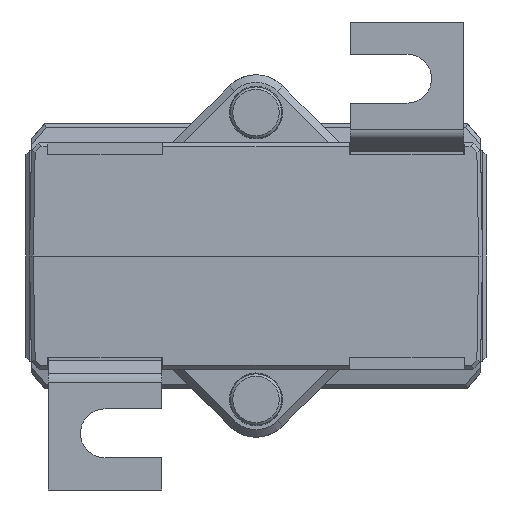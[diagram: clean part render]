
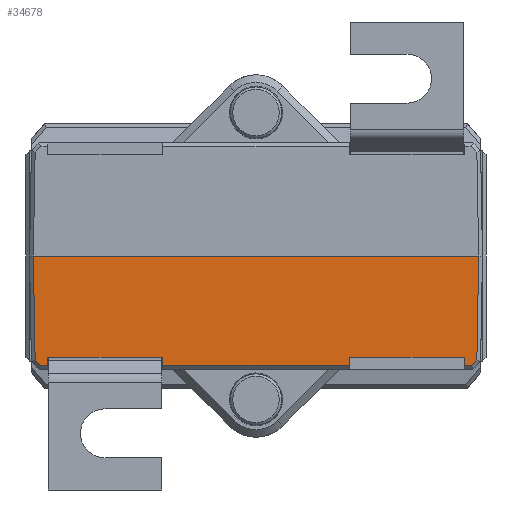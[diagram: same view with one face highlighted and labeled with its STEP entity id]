
A CAD part, front view. The second image highlights one B-rep face of the part: STEP entity #34678.
In plain terms, the highlighted planar face has unit normal (0, -1, -0.018).
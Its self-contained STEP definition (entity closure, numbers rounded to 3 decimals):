
#2311=FACE_OUTER_BOUND('',#4211,.T.);
#4211=EDGE_LOOP('',(#23944,#23945,#23946,#23947,#23948,#23949,#23950,#23951,
#23952,#23953,#23954,#23955,#23956,#23957));
#6909=LINE('',#55763,#10638);
#6910=LINE('',#55765,#10639);
#6911=LINE('',#55767,#10640);
#6912=LINE('',#55769,#10641);
#6913=LINE('',#55771,#10642);
#6914=LINE('',#55773,#10643);
#6915=LINE('',#55775,#10644);
#6916=LINE('',#55777,#10645);
#6917=LINE('',#55779,#10646);
#6918=LINE('',#55781,#10647);
#6919=LINE('',#55783,#10648);
#6920=LINE('',#55785,#10649);
#6921=LINE('',#55787,#10650);
#6922=LINE('',#55788,#10651);
#10638=VECTOR('',#40457,1000.);
#10639=VECTOR('',#40458,1000.);
#10640=VECTOR('',#40459,1000.);
#10641=VECTOR('',#40460,1000.);
#10642=VECTOR('',#40461,1000.);
#10643=VECTOR('',#40462,1000.);
#10644=VECTOR('',#40463,1000.);
#10645=VECTOR('',#40464,1000.);
#10646=VECTOR('',#40465,1000.);
#10647=VECTOR('',#40466,1000.);
#10648=VECTOR('',#40467,1000.);
#10649=VECTOR('',#40468,1000.);
#10650=VECTOR('',#40469,1000.);
#10651=VECTOR('',#40470,1000.);
#14410=VERTEX_POINT('',#55761);
#14411=VERTEX_POINT('',#55762);
#14412=VERTEX_POINT('',#55764);
#14413=VERTEX_POINT('',#55766);
#14414=VERTEX_POINT('',#55768);
#14415=VERTEX_POINT('',#55770);
#14416=VERTEX_POINT('',#55772);
#14417=VERTEX_POINT('',#55774);
#14418=VERTEX_POINT('',#55776);
#14419=VERTEX_POINT('',#55778);
#14420=VERTEX_POINT('',#55780);
#14421=VERTEX_POINT('',#55782);
#14422=VERTEX_POINT('',#55784);
#14423=VERTEX_POINT('',#55786);
#18038=EDGE_CURVE('',#14410,#14411,#6909,.T.);
#18039=EDGE_CURVE('',#14411,#14412,#6910,.T.);
#18040=EDGE_CURVE('',#14412,#14413,#6911,.T.);
#18041=EDGE_CURVE('',#14414,#14413,#6912,.T.);
#18042=EDGE_CURVE('',#14414,#14415,#6913,.T.);
#18043=EDGE_CURVE('',#14416,#14415,#6914,.T.);
#18044=EDGE_CURVE('',#14416,#14417,#6915,.T.);
#18045=EDGE_CURVE('',#14418,#14417,#6916,.T.);
#18046=EDGE_CURVE('',#14419,#14418,#6917,.T.);
#18047=EDGE_CURVE('',#14420,#14419,#6918,.T.);
#18048=EDGE_CURVE('',#14420,#14421,#6919,.T.);
#18049=EDGE_CURVE('',#14421,#14422,#6920,.T.);
#18050=EDGE_CURVE('',#14422,#14423,#6921,.T.);
#18051=EDGE_CURVE('',#14410,#14423,#6922,.T.);
#23944=ORIENTED_EDGE('',*,*,#18038,.T.);
#23945=ORIENTED_EDGE('',*,*,#18039,.T.);
#23946=ORIENTED_EDGE('',*,*,#18040,.T.);
#23947=ORIENTED_EDGE('',*,*,#18041,.F.);
#23948=ORIENTED_EDGE('',*,*,#18042,.T.);
#23949=ORIENTED_EDGE('',*,*,#18043,.F.);
#23950=ORIENTED_EDGE('',*,*,#18044,.T.);
#23951=ORIENTED_EDGE('',*,*,#18045,.F.);
#23952=ORIENTED_EDGE('',*,*,#18046,.F.);
#23953=ORIENTED_EDGE('',*,*,#18047,.F.);
#23954=ORIENTED_EDGE('',*,*,#18048,.T.);
#23955=ORIENTED_EDGE('',*,*,#18049,.T.);
#23956=ORIENTED_EDGE('',*,*,#18050,.T.);
#23957=ORIENTED_EDGE('',*,*,#18051,.F.);
#31546=PLANE('',#36771);
#34678=ADVANCED_FACE('',(#2311),#31546,.T.);
#36771=AXIS2_PLACEMENT_3D('',#55760,#40455,#40456);
#40455=DIRECTION('center_axis',(0.,-1.,
-0.017));
#40456=DIRECTION('ref_axis',(0.,-0.017,
1.));
#40457=DIRECTION('',(0.017,0.017,-1.));
#40458=DIRECTION('',(0.719,0.012,-0.695));
#40459=DIRECTION('',(1.,0.,0.));
#40460=DIRECTION('',(-0.009,0.017,-1.));
#40461=DIRECTION('',(1.,0.,0.));
#40462=DIRECTION('',(-0.009,-0.017,1.));
#40463=DIRECTION('',(1.,0.,0.));
#40464=DIRECTION('',(-0.009,0.017,-1.));
#40465=DIRECTION('',(-1.,0.,0.));
#40466=DIRECTION('',(-0.009,-0.017,1.));
#40467=DIRECTION('',(1.,0.,0.));
#40468=DIRECTION('',(0.719,-0.012,0.695));
#40469=DIRECTION('',(0.017,-0.017,1.));
#40470=DIRECTION('',(1.,0.,0.));
#55760=CARTESIAN_POINT('Origin',(30.,-31.,0.));
#55761=CARTESIAN_POINT('',(-29.5,-31.,0.));
#55762=CARTESIAN_POINT('',(-29.259,-30.76,-13.775));
#55763=CARTESIAN_POINT('',(-29.482,-30.982,-1.038));
#55764=CARTESIAN_POINT('',(-28.509,-30.747,-14.5));
#55765=CARTESIAN_POINT('',(-28.368,-30.745,-14.636));
#55766=CARTESIAN_POINT('',(-27.618,-30.747,-14.5));
#55767=CARTESIAN_POINT('',(28.72,-30.747,-14.5));
#55768=CARTESIAN_POINT('',(-27.608,-30.766,-13.4));
#55769=CARTESIAN_POINT('',(-27.487,-31.009,0.502));
#55770=CARTESIAN_POINT('',(-12.392,-30.766,-13.4));
#55771=CARTESIAN_POINT('',(30.,-30.766,-13.4));
#55772=CARTESIAN_POINT('',(-12.382,-30.747,-14.5));
#55773=CARTESIAN_POINT('',(-12.505,-30.994,-0.371));
#55774=CARTESIAN_POINT('',(12.382,-30.747,-14.5));
#55775=CARTESIAN_POINT('',(28.72,-30.747,-14.5));
#55776=CARTESIAN_POINT('',(12.392,-30.766,-13.4));
#55777=CARTESIAN_POINT('',(12.51,-31.003,0.153));
#55778=CARTESIAN_POINT('',(27.608,-30.766,-13.4));
#55779=CARTESIAN_POINT('',(30.,-30.766,-13.4));
#55780=CARTESIAN_POINT('',(27.618,-30.747,-14.5));
#55781=CARTESIAN_POINT('',(27.491,-31.,-0.022));
#55782=CARTESIAN_POINT('',(28.509,-30.747,-14.5));
#55783=CARTESIAN_POINT('',(28.72,-30.747,-14.5));
#55784=CARTESIAN_POINT('',(29.259,-30.76,-13.776));
#55785=CARTESIAN_POINT('',(29.404,-30.762,-13.636));
#55786=CARTESIAN_POINT('',(29.5,-31.,0.));
#55787=CARTESIAN_POINT('',(29.5,-31.,0.009));
#55788=CARTESIAN_POINT('',(-30.,-31.,0.));
